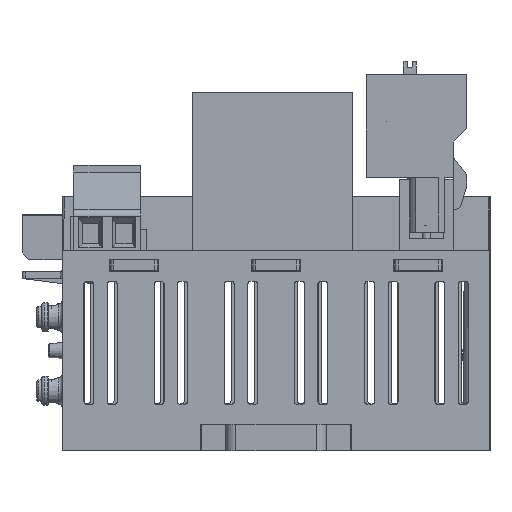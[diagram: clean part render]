
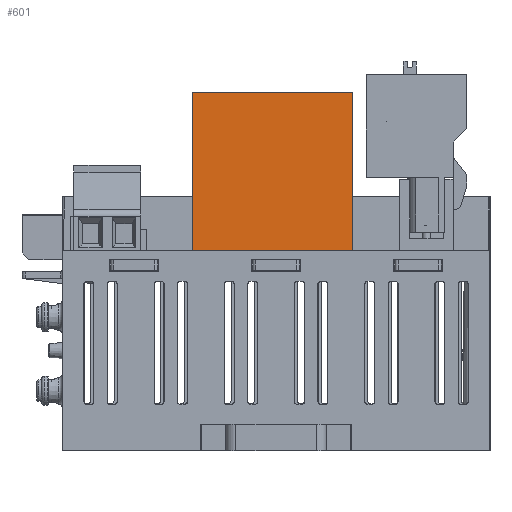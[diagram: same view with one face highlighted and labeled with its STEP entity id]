
A CAD part, front view. The second image highlights one B-rep face of the part: STEP entity #601.
In plain terms, the highlighted planar face has unit normal (0, -1, 0).
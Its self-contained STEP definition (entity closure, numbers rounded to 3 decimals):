
#601 = ADVANCED_FACE ( 'NONE', ( #61355 ), #8908, .F. ) ;
#1297 = EDGE_LOOP ( 'NONE', ( #27870, #49744, #35992, #23207 ) ) ;
#2274 = DIRECTION ( 'NONE',  ( -1., 0., 0. ) ) ;
#6552 = EDGE_CURVE ( 'NONE', #49146, #30480, #13805, .T. ) ;
#7145 = CARTESIAN_POINT ( 'NONE',  ( -12.55, -57.4, 0. ) ) ;
#8908 = PLANE ( 'NONE',  #37238 ) ;
#8968 = DIRECTION ( 'NONE',  ( -1., 0., 0. ) ) ;
#10341 = VECTOR ( 'NONE', #8968, 1000. ) ;
#12217 = VERTEX_POINT ( 'NONE', #50352 ) ;
#13404 = CARTESIAN_POINT ( 'NONE',  ( -12.55, -57.4, 0. ) ) ;
#13585 = EDGE_CURVE ( 'NONE', #12217, #49146, #15858, .T. ) ;
#13771 = VECTOR ( 'NONE', #52065, 1000. ) ;
#13805 = LINE ( 'NONE', #31011, #13771 ) ;
#15086 = VECTOR ( 'NONE', #2274, 1000. ) ;
#15858 = LINE ( 'NONE', #56240, #10341 ) ;
#18924 = DIRECTION ( 'NONE',  ( 1., 0., 0. ) ) ;
#23207 = ORIENTED_EDGE ( 'NONE', *, *, #40306, .T. ) ;
#27870 = ORIENTED_EDGE ( 'NONE', *, *, #65699, .T. ) ;
#29625 = CARTESIAN_POINT ( 'NONE',  ( -12.55, -57.4, 25. ) ) ;
#30480 = VERTEX_POINT ( 'NONE', #29625 ) ;
#31011 = CARTESIAN_POINT ( 'NONE',  ( -12.55, -57.4, 0. ) ) ;
#34467 = VERTEX_POINT ( 'NONE', #58347 ) ;
#35992 = ORIENTED_EDGE ( 'NONE', *, *, #13585, .F. ) ;
#37238 = AXIS2_PLACEMENT_3D ( 'NONE', #13404, #45813, #18924 ) ;
#40306 = EDGE_CURVE ( 'NONE', #12217, #34467, #55817, .T. ) ;
#43012 = CARTESIAN_POINT ( 'NONE',  ( -12.55, -57.4, 25. ) ) ;
#45801 = CARTESIAN_POINT ( 'NONE',  ( 11.45, -57.4, 0. ) ) ;
#45813 = DIRECTION ( 'NONE',  ( 0., 1., 0. ) ) ;
#49146 = VERTEX_POINT ( 'NONE', #7145 ) ;
#49744 = ORIENTED_EDGE ( 'NONE', *, *, #6552, .F. ) ;
#50352 = CARTESIAN_POINT ( 'NONE',  ( 11.45, -57.4, 0. ) ) ;
#52065 = DIRECTION ( 'NONE',  ( 0., 0., 1. ) ) ;
#52674 = VECTOR ( 'NONE', #66862, 1000. ) ;
#55817 = LINE ( 'NONE', #45801, #52674 ) ;
#56240 = CARTESIAN_POINT ( 'NONE',  ( -12.55, -57.4, 0. ) ) ;
#58347 = CARTESIAN_POINT ( 'NONE',  ( 11.45, -57.4, 25. ) ) ;
#59897 = LINE ( 'NONE', #43012, #15086 ) ;
#61355 = FACE_OUTER_BOUND ( 'NONE', #1297, .T. ) ;
#65699 = EDGE_CURVE ( 'NONE', #34467, #30480, #59897, .T. ) ;
#66862 = DIRECTION ( 'NONE',  ( 0., 0., 1. ) ) ;
